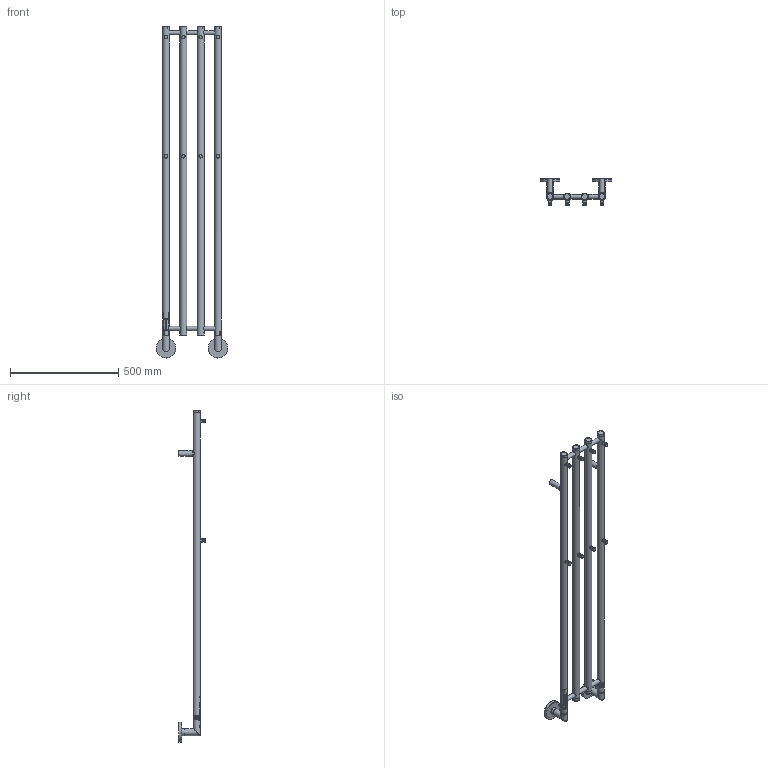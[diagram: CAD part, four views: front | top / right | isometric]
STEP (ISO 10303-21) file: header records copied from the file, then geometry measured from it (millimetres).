
FILE_DESCRIPTION(/* description */ ('Unknown'),/* implementation_level */ '2;1');
FILE_NAME(/* name */ 'MO-R-H- Mona pravá',/* time_stamp */ '2024-05-19T20:49:01+02:00',/* author */ ('Unknown'),/* organization */ ('Unknown'),/* preprocessor_version */ 'ST-DEVELOPER v18.102',/* originating_system */ 'Solid Edge',/* authorisation */ 'Unknown');
FILE_SCHEMA (('AUTOMOTIVE_DESIGN {1 0 10303 214 3 1 1}'));
Length unit declared in the file: millimetre
Products named in the file (20): MO-R-H- Mona pravá; MO-R-V-L-TR-32-1-1425; MO-R-V-R-TR-32-1-1425; MO-M-V-M-TR-32-1-1425; MO-H-R-TR-20-1-64; Sestava p鷫p璯a鋀; PD-P-1 - Spodní díl pøepínaèe; PD-P-2 - Horní díl pøepínaèe; PD-P-3 - Kryt p鷫p璯a鋀; OL-HD - Svaøenec držáku; OL-TR-HD - Trubka horního držáku; LD-P-P - Pøipojovací plech; BW-K-2 - Koleno spodní BW; PD-R-1 - Rozeta; BW-K-TR-R - Trubka kolena u rozety; BW-K-TR-K - Trubka kolena u konektoru; PD-K-1 - Konektor 30x60; PD-K-2 - Konektor 30x60 s dírou pro kabel; PD-V-1 - Víèko 32; Háèek
Assembly tree (39 placements, depth 3):
  MO-R-H- Mona pravá
    MO-R-V-L-TR-32-1-1425
    MO-R-V-R-TR-32-1-1425
    MO-M-V-M-TR-32-1-1425  x2
    MO-H-R-TR-20-1-64  x6
    Sestava p鷫p璯a鋀
      PD-P-1 - Spodní díl pøepínaèe
      PD-P-2 - Horní díl pøepínaèe
      PD-P-3 - Kryt p鷫p璯a鋀
    OL-HD - Svaøenec držáku  x2
      OL-TR-HD - Trubka horního držáku
      LD-P-P - Pøipojovací plech
    BW-K-2 - Koleno spodní BW  x2
      PD-R-1 - Rozeta
      BW-K-TR-R - Trubka kolena u rozety
      BW-K-TR-K - Trubka kolena u konektoru
    PD-K-1 - Konektor 30x60
    PD-K-2 - Konektor 30x60 s dírou pro kabel
    PD-V-1 - Víèko 32  x6
    Háèek  x8
Bounding box: 331 x 124.56 x 1532.5 mm (x, y, z)
Volume: 790115.5 mm3; surface area: 1345245.7 mm2
Topology: 39 solids, 39 shells, 1234 faces, 3075 edges, 1943 vertices
Faces by surface type: cylinder 508, plane 416, torus 194, sphere 66, bspline 30, cone 20
Full cylindrical faces by diameter (mm): 2.4 x2, 3.4 x2, 4.134 x2, 4.3 x5, 4.8 x8, 5 x2, 5.2 x2, 5.5 x2, 7 x10, 8 x8, 12.5 x1, 13 x8, 16 x16, 18 x6, 20 x18, 21 x2, 22 x4, 23 x2, 25 x2, 25.1 x4, 26.1 x4, 26.5 x6, 28.5 x6, 29 x6, 29.5 x12, 30 x4, 32 x14, 81.8 x2, 87.2 x2, 91 x2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
Entity records: 29906 total; most frequent: CARTESIAN_POINT 8327, ORIENTED_EDGE 4188, DIRECTION 4082, EDGE_CURVE 2094, AXIS2_PLACEMENT_3D 1592, VERTEX_POINT 1396, EDGE_LOOP 1158, FACE_BOUND 1158
